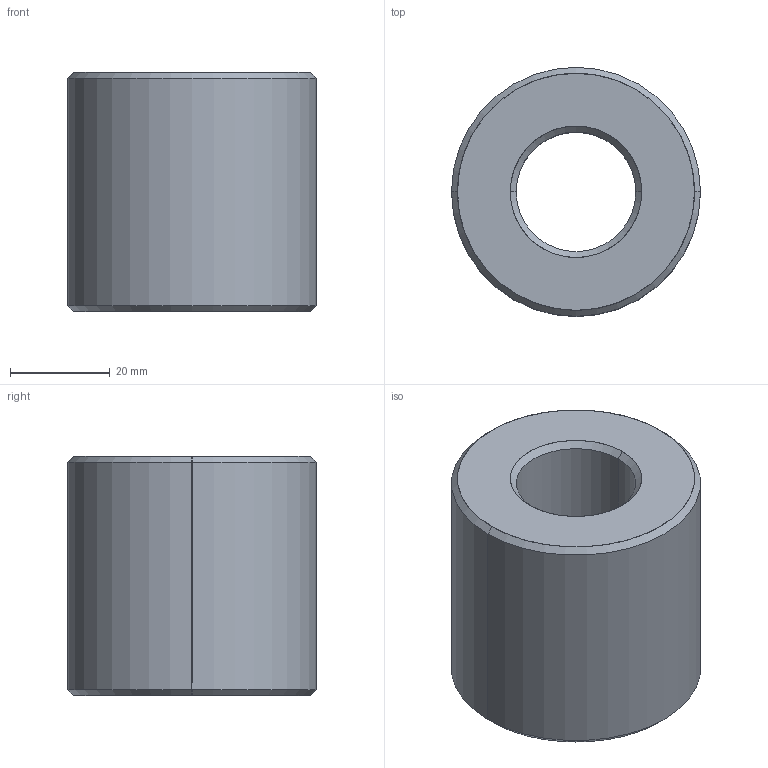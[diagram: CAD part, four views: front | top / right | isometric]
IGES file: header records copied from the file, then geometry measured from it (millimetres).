
Start section: SolidWorks IGES file using analytic representation for surfaces
Global section: file name: C:\Users\ianosborn\Desktop\L1330_v2\L1330_v2_20241024_IGES\L1330.L24-05.igs; native system: SolidWorks 2019; preprocessor: SolidWorks 2019; author: IanOsborn; date: 241024.102257; units: millimetre
Bounding box: 50 x 50 x 48 mm (x, y, z)
Surface area: 13854.3 mm2 (no closed solid volume)
Topology: 0 solids, 0 shells, 14 faces, 240 edges, 240 vertices
Faces by surface type: revolution 12, bspline 2
